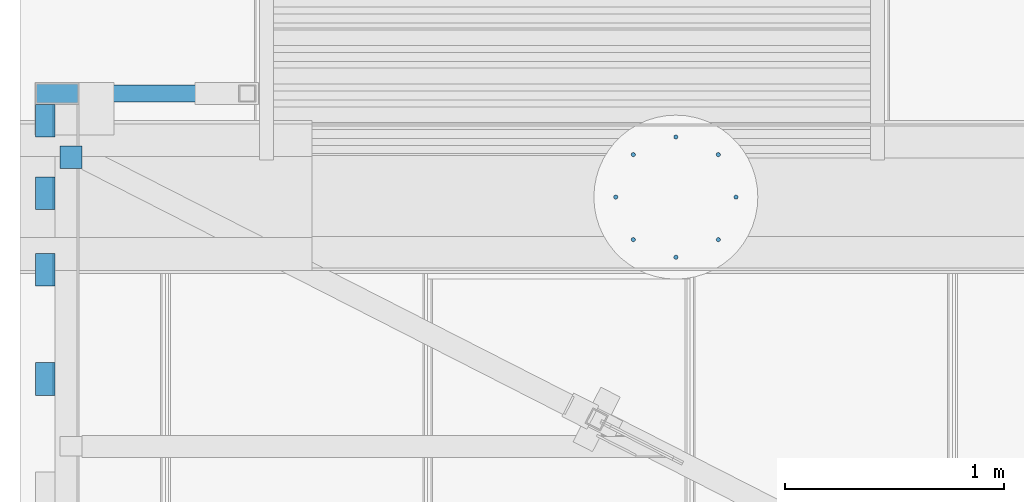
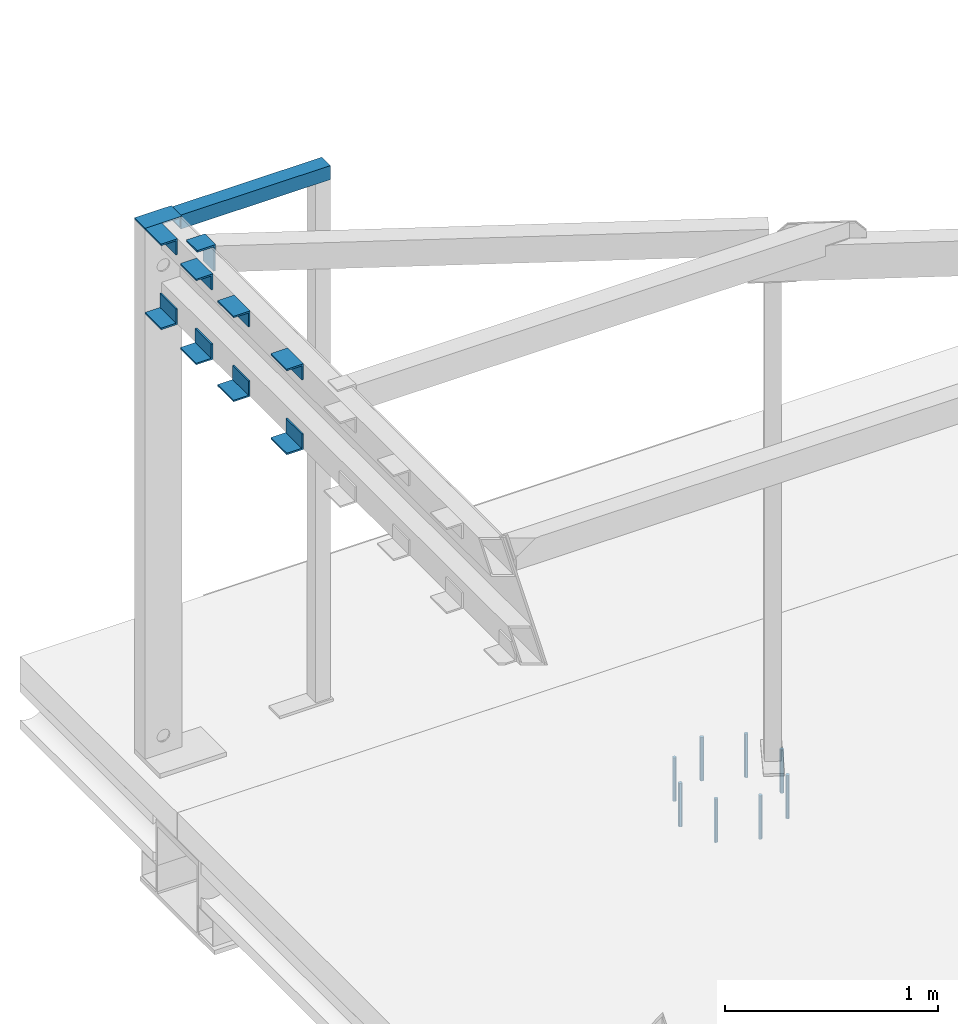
# One storey, part 22 of 30: 19 beams.
"""IFC2X3 building model written with IfcOpenShell, lengths in millimetres."""

from ifc_helpers import new_model, entity, si_unit, converted_unit, derived_unit, direction, frame, origin_with_axes, place, context, subcontext, project, spatial, faceted_brep, material, type_object, element, save


model = new_model("IFC2X3")

# Units and contexts
model_context = context("Model", 3, precision=0.01, world=frame((0.0, 4.29681676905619e-09, 0.0)), true_north=direction((4.01073788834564e-13, 1.0)))
plan_context = context("Plan", 3, precision=0.01, world=frame((0.0, 4.29681676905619e-09, 0.0)), true_north=direction((4.01073788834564e-13, 1.0)))
body_context = subcontext(model_context, "Body", "Model", "MODEL_VIEW")
ifc_project = project(units=[converted_unit("PLANEANGLEUNIT", "DEGREE", entity("IfcPositiveLengthMeasure", 0.0174532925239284), si_unit("PLANEANGLEUNIT", "RADIAN"), dimensions=[0, 0, 0, 0, 0, 0, 0]), si_unit("AREAUNIT", "SQUARE_METRE"), si_unit("LENGTHUNIT", "METRE", prefix="MILLI"), si_unit("MASSUNIT", "GRAM", prefix="KILO"), si_unit("POWERUNIT", "WATT"), si_unit("PRESSUREUNIT", "PASCAL"), si_unit("FORCEUNIT", "NEWTON", prefix="KILO"), si_unit("ELECTRICVOLTAGEUNIT", "VOLT"), si_unit("ELECTRICCURRENTUNIT", "AMPERE"), si_unit("THERMODYNAMICTEMPERATUREUNIT", "DEGREE_CELSIUS"), si_unit("TIMEUNIT", "SECOND"), si_unit("VOLUMEUNIT", "CUBIC_METRE"), derived_unit("LINEARVELOCITYUNIT", [(si_unit("LENGTHUNIT", "METRE"), 1), (si_unit("TIMEUNIT", "SECOND"), -1)]), derived_unit("VOLUMETRICFLOWRATEUNIT", [(si_unit("VOLUMEUNIT", "CUBIC_METRE"), 1), (si_unit("TIMEUNIT", "SECOND"), -1)]), derived_unit("THERMALTRANSMITTANCEUNIT", [(si_unit("POWERUNIT", "WATT"), 1), (si_unit("THERMODYNAMICTEMPERATUREUNIT", "KELVIN"), -1), (si_unit("AREAUNIT", "SQUARE_METRE"), -1)]), derived_unit("SOUNDPRESSUREUNIT", [(si_unit("PRESSUREUNIT", "PASCAL"), 1)])], contexts=[model_context, plan_context])

# Site, building, storey
site_placement = place(None, frame((0.0, -4.29681676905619e-09, 0.0), z_axis=(0.0, 0.0, 1.0), x_axis=(1.0, 0.0, 0.0)))
site = spatial("IfcSite", under=ifc_project, at=site_placement, Name="Gardermoen", CompositionType="ELEMENT")
building_placement = place(site_placement, frame((0.0, 4.29681676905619e-09, 0.0), z_axis=(0.0, 0.0, 1.0), x_axis=(1.0, 0.0, 0.0)))
building = spatial("IfcBuilding", under=site, at=building_placement, Name="TI", CompositionType="ELEMENT")
storey_placement = place(building_placement, origin_with_axes())
storey = spatial("IfcBuildingStorey", under=building, at=storey_placement, Name="F", CompositionType="ELEMENT", Elevation=0.0)

# Beams
ifc_material = material(Name="STEEL/S355")
beam_type_1 = type_object("IfcBeamType", Name="PL8*100", PredefinedType="NOTDEFINED")
beam_1_placement = place(storey_placement, frame((598269.997607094, 698524.002606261, 213891.000686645), z_axis=(-5.80000057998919e-08, -0.999999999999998, 0.0), x_axis=(-0.999999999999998, 5.80000057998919e-08, 0.0)))
element("IfcBeam", 1, at=beam_1_placement, inside=storey, type_object=beam_type_1, material=ifc_material, Name="STÅLBJELKE", ObjectType="PL8*100", context=body_context, shape_type="Brep", body=[
    faceted_brep([(-5.82076609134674e-11, -3.99999999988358, 0.0), (3.95812094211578e-09, -3.99999999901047, 100.000000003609), (4.30736690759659e-09, 4.00000000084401, 100.000000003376), (-5.82076609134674e-11, 4.00000000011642, -5.82076609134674e-11), (199.999999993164, -4.0, 99.9999999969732), (199.999999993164, 4.0, 99.9999999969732), (200.0, -4.0, -1.97906047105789e-09), (200.0, 4.00000000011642, -1.62981450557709e-09)], [[[0, 1, 2, 3]], [[1, 4, 5, 2]], [[4, 6, 7, 5]], [[6, 0, 3, 7]], [[5, 7, 3, 2]], [[6, 4, 1, 0]]]),
])
beam_type_2 = type_object("IfcBeamType", Name="L90*9", PredefinedType="NOTDEFINED")
for number, where, z_axis, x_axis in (
    (2, (598114.998348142, 697943.002304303, 213449.999618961), (-0.999999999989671, -4.54499979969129e-06, 0.0), (-4.54499979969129e-06, 0.999999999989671, -1.52795109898e-11)),
    (3, (598114.998348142, 697943.002304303, 213849.999618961), (9.05696637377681e-17, -1.5279510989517e-11, -1.0), (-5.9275237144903e-06, 0.999999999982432, -1.52795109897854e-11)),
    (4, (598114.998348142, 697593.002304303, 213449.999618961), (-0.999999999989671, -4.54499979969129e-06, 0.0), (-4.54499979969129e-06, 0.999999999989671, -1.52795109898e-11)),
    (5, (598114.998348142, 697593.002304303, 213849.999618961), (9.05696637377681e-17, -1.5279510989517e-11, -1.0), (-5.9275237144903e-06, 0.999999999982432, -1.52795109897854e-11)),
    (6, (598114.998348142, 697093.002304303, 213449.999618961), (-0.999999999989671, -4.54499979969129e-06, 0.0), (-4.54499979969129e-06, 0.999999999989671, -1.52795109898e-11)),
    (7, (598114.998348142, 697093.002304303, 213849.999618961), (9.05696637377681e-17, -1.5279510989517e-11, -1.0), (-5.9275237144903e-06, 0.999999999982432, -1.52795109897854e-11)),
    (8, (598114.998348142, 698274.002304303, 213449.999618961), (-0.999999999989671, -4.54499979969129e-06, 0.0), (-4.54499979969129e-06, 0.999999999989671, -1.52795109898e-11)),
    (9, (598114.998348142, 698274.002304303, 213849.999618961), (9.05696637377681e-17, -1.5279510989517e-11, -1.0), (-5.9275237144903e-06, 0.999999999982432, -1.52795109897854e-11)),
):
    element("IfcBeam", number, at=place(storey_placement, frame(where, z_axis=z_axis, x_axis=x_axis)), inside=storey, type_object=beam_type_2, material=ifc_material, Name="STÅLBJELKE", ObjectType="L90*9", context=body_context, shape_type="Brep", body=[
        faceted_brep([(0.0, 45.0, -45.0), (0.0, 45.0, 45.0), (149.99878331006, 45.0, 45.0000000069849), (149.998783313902, 45.0, -44.9999999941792), (8.14907252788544e-10, 36.0, 44.9999999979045), (149.99878331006, 36.0, 45.0000000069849), (-4.65661287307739e-10, 36.0, -35.9999999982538), (149.998783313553, 36.0, -35.9999999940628), (-4.65661287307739e-10, -45.0, -35.9999999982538), (149.998783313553, -45.0, -35.9999999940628), (0.0, -45.0, -45.0), (149.998783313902, -45.0, -44.9999999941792)], [[[0, 1, 2, 3]], [[1, 4, 5, 2]], [[4, 6, 7, 5]], [[6, 8, 9, 7]], [[8, 10, 11, 9]], [[10, 0, 3, 11]], [[5, 7, 9, 11, 3, 2]], [[10, 8, 6, 4, 1, 0]]]),
    ])
beam_type_3 = type_object("IfcBeamType", Name="RHS80*80*6.3", PredefinedType="NOTDEFINED")
beam_2_placement = place(storey_placement, frame((598269.997607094, 698474.002606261, 213855.000686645), z_axis=(0.0, 0.0, 1.0), x_axis=(1.0, 0.0, 0.0)))
element("IfcBeam", 10, at=beam_2_placement, inside=storey, type_object=beam_type_3, material=ifc_material, Name="STÅLBJELKE", ObjectType="RHS80*80*6.3", context=body_context, shape_type="Brep", body=[
    faceted_brep([(0.0, 33.6999998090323, -33.6999998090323), (0.0, -33.6999998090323, -33.6999998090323), (810.009999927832, -33.6999998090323, -33.6999998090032), (810.009999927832, 33.6999998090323, -33.6999998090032), (0.0, -33.6999998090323, 33.6999998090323), (810.009999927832, -33.6999998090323, 33.6999998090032), (0.0, 33.6999998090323, 33.6999998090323), (810.009999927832, 33.6999998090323, 33.6999998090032), (0.0, 40.0, -40.0), (0.0, 40.0, 40.0), (810.009999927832, 40.0, 40.0), (810.009999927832, 40.0, -40.0), (0.0, -40.0, 40.0), (810.009999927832, -40.0, 40.0), (0.0, -40.0, -40.0), (810.009999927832, -40.0, -40.0)], [[[0, 1, 2, 3]], [[1, 4, 5, 2]], [[4, 6, 7, 5]], [[6, 0, 3, 7]], [[8, 9, 10, 11]], [[9, 12, 13, 10]], [[12, 14, 15, 13]], [[14, 8, 11, 15]], [[13, 15, 11, 10], [5, 7, 3, 2]], [[14, 12, 9, 8], [6, 4, 1, 0]]]),
])
beam_type_4 = type_object("IfcBeamType", Name="L150*100*10", PredefinedType="NOTDEFINED")
beam_3_placement = place(storey_placement, frame((598233.998365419, 698131.3821604, 213829.999618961), z_axis=(0.0, 0.0, -1.0), x_axis=(-8.11000009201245e-06, 0.999999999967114, 0.0)))
element("IfcBeam", 11, at=beam_3_placement, inside=storey, type_object=beam_type_4, material=ifc_material, Name="STÅLBJELKE", ObjectType="L150*100*10", context=body_context, shape_type="Brep", body=[
    faceted_brep([(0.0, 50.0, -75.0), (0.0, 50.0, 75.0), (101.99878332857, 50.0000000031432, 75.0), (101.99878332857, 50.0000000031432, -75.0), (-5.82076609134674e-10, 40.0000000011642, 75.0), (101.998783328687, 40.000000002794, 75.0), (1.28056854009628e-09, 40.0, -64.9999999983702), (101.998783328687, 40.000000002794, -65.0), (1.28056854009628e-09, -50.0, -64.9999999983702), (101.998783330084, -49.9999999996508, -65.0), (0.0, -50.0, -75.0), (101.998783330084, -49.9999999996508, -75.0)], [[[0, 1, 2, 3]], [[1, 4, 5, 2]], [[4, 6, 7, 5]], [[6, 8, 9, 7]], [[8, 10, 11, 9]], [[10, 0, 3, 11]], [[5, 7, 9, 11, 3, 2]], [[10, 8, 6, 4, 1, 0]]]),
])
beam_type_5 = type_object("IfcBeamType", Name="M20", PredefinedType="NOTDEFINED")
for number, where, z_axis, x_axis in (
    (12, (601194.449886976, 697805.55, 210049.88), (1.0, 0.0, 0.0), (0.0, 0.0, -1.0)),
    (13, (600805.549886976, 698194.45, 210049.88), (1.0, 0.0, 0.0), (0.0, 0.0, -1.0)),
    (14, (601194.449886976, 698194.45, 210049.88), (1.0, 0.0, 0.0), (0.0, 0.0, -1.0)),
    (15, (600805.549886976, 697805.55, 210049.88), (1.0, 0.0, 0.0), (0.0, 0.0, -1.0)),
    (16, (600724.999886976, 698000.0, 210049.88), (1.0, 0.0, 0.0), (0.0, 0.0, -1.0)),
    (17, (601274.999886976, 698000.0, 210049.88), (1.0, 0.0, 0.0), (0.0, 0.0, -1.0)),
    (18, (600999.999886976, 697725.0, 210049.88), (1.0, 0.0, 0.0), (0.0, 0.0, -1.0)),
    (19, (600999.999886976, 698275.0, 210049.88), (1.0, 0.0, 0.0), (0.0, 0.0, -1.0)),
):
    element("IfcBeam", number, at=place(storey_placement, frame(where, z_axis=z_axis, x_axis=x_axis)), inside=storey, type_object=beam_type_5, material=ifc_material, Name="INNSTØPNGODS", ObjectType="M20", context=body_context, shape_type="Brep", body=[
        faceted_brep([(0.0, -10.0, -1.16415321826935e-10), (0.0, -7.07106781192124, -7.07106781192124), (250.0, -7.07106781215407, -7.07106781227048), (250.0, -10.0000000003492, 1.74622982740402e-10), (0.0, 0.0, -10.0), (250.0, 5.82076609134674e-11, -10.0000000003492), (0.0, 7.07106781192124, -7.07106781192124), (250.0, 7.07106781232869, -7.07106781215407), (0.0, 10.0, -1.16415321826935e-10), (250.0, 10.0, 0.0), (0.0, 7.07106781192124, 7.07106781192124), (250.0, 7.07106781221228, 7.07106781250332), (0.0, 0.0, 10.0), (250.0, -5.82076609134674e-11, 10.0000000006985), (0.0, -7.07106781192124, 7.07106781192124), (250.0, -7.07106781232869, 7.07106781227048)], [[[0, 1, 2, 3]], [[1, 4, 5, 2]], [[4, 6, 7, 5]], [[6, 8, 9, 7]], [[8, 10, 11, 9]], [[10, 12, 13, 11]], [[12, 14, 15, 13]], [[14, 0, 3, 15]], [[5, 7, 9, 11, 13, 15, 3, 2]], [[14, 12, 10, 8, 6, 4, 1, 0]]]),
    ])

save(model, "model.ifc")
